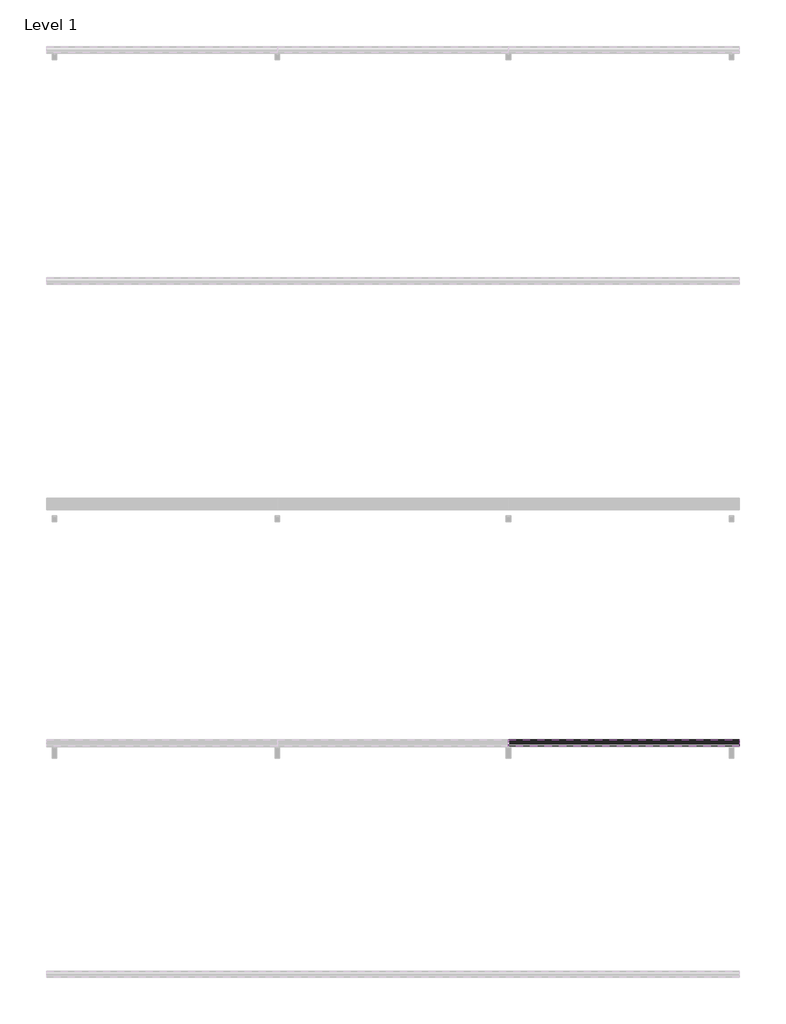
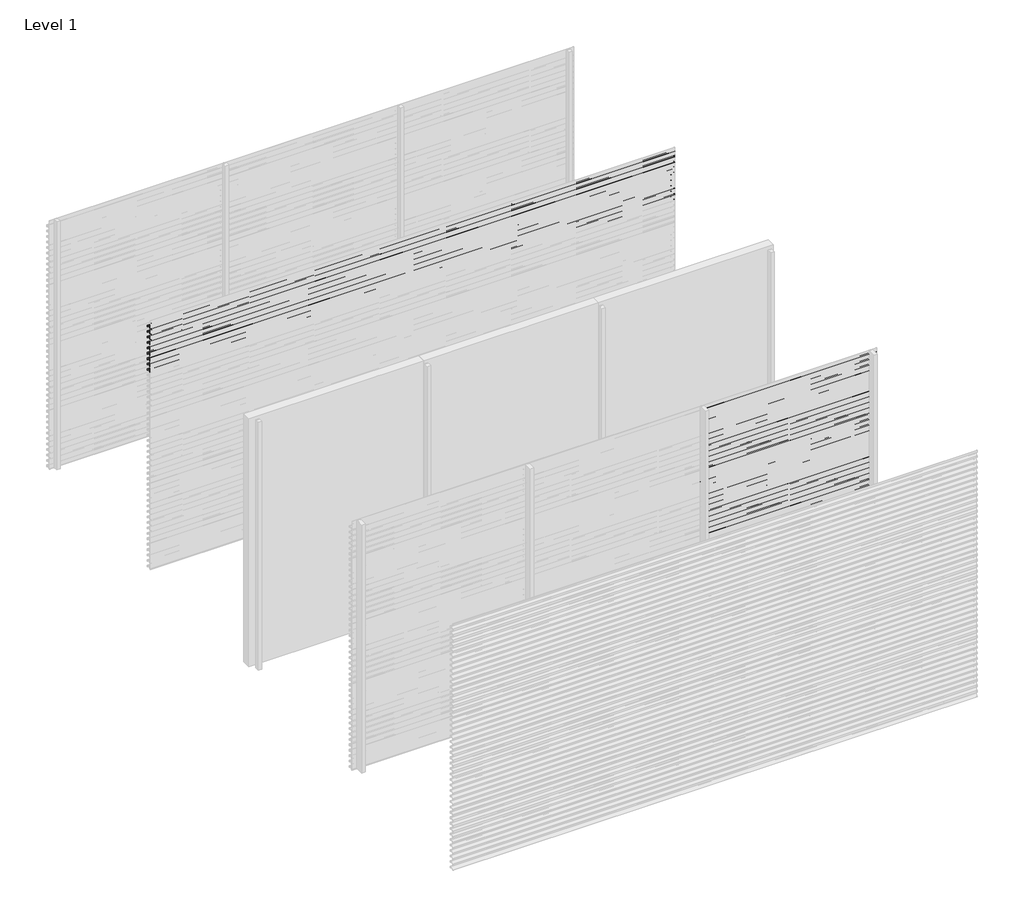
# One storey, part 12 of 27: 71 proxies.
"""IFC4 building model written with IfcOpenShell, lengths in millimetres."""

import ifcopenshell
import ifcopenshell.guid

model = None  # the IFC model being written
_history = None  # IfcOwnerHistory: only IFC2X3 demands one
_inside = {}  # id of a spatial element -> (the spatial element, [elements in it])
_under = {}  # id of a project, library or spatial element -> (it, [spatial elements below it])
_declared = {}  # id of a project -> (the project, [libraries it declares])
_typed = {}  # id of a type object -> (the type object, [elements of that type])
_made_of = {}  # id of a material, layer set ... -> (it, [elements and type objects made of it])


def new_model(schema):
    """Start an empty IFC model of exactly this schema.

    Asked for "IFC4X3", IfcOpenShell would pick the latest addendum, in which some entities
    have other attributes; the version numbers below select the first issue.
    IFC2X3 requires an IfcOwnerHistory on every rooted entity: one is made here for all.
    """
    global model, _history
    if schema == "IFC4X3":
        model = ifcopenshell.file(schema_version=(4, 3, 0, 0))
    else:
        model = ifcopenshell.file(schema=schema)
    _inside.clear()
    _under.clear()
    _declared.clear()
    _typed.clear()
    _made_of.clear()
    _history = None
    if model.schema == "IFC2X3":
        org = make("IfcOrganization", Name="unknown")
        user = make(
            "IfcPersonAndOrganization",
            ThePerson=make("IfcPerson", FamilyName="unknown"),
            TheOrganization=org,
        )
        app = make(
            "IfcApplication",
            ApplicationDeveloper=org,
            Version="unknown",
            ApplicationFullName="unknown",
            ApplicationIdentifier="unknown",
        )
        _history = make(
            "IfcOwnerHistory",
            OwningUser=user,
            OwningApplication=app,
            ChangeAction="ADDED",
            CreationDate=0,
        )
    return model


def make(cls, **values):
    """One entity of the class cls with the attributes given. An attribute that is None is left unset."""
    return model.create_entity(
        cls, **{name: value for name, value in values.items() if value is not None}
    )


def rooted(cls, **values):
    """An entity with a GlobalId (a new one), such as an element, a storey or a relation."""
    return make(cls, GlobalId=ifcopenshell.guid.new(), OwnerHistory=_history, **values)


def si_unit(unit_type, name, prefix=None):
    """IfcSIUnit, for example si_unit("LENGTHUNIT", "METRE", prefix="MILLI")."""
    return make("IfcSIUnit", UnitType=unit_type, Prefix=prefix, Name=name)


def assignment(units):
    """IfcUnitAssignment: the units of a project."""
    return None if units is None else make("IfcUnitAssignment", Units=units)


def point(xyz):
    """IfcCartesianPoint."""
    return None if xyz is None else make("IfcCartesianPoint", Coordinates=xyz)


def direction(xyz):
    """IfcDirection."""
    return None if xyz is None else make("IfcDirection", DirectionRatios=xyz)


def frame(location, z_axis=None, x_axis=None):
    """IfcAxis2Placement3D, a coordinate frame: its origin and axes. An axis left out is left unset."""
    return make(
        "IfcAxis2Placement3D",
        Location=point(location),
        Axis=direction(z_axis),
        RefDirection=direction(x_axis),
    )


def origin():
    """The frame at (0, 0, 0) with its axes left unset."""
    return frame((0.0, 0.0, 0.0))


def place(relative_to, where):
    """IfcLocalPlacement: puts the frame where relative to a parent placement (None: the world)."""
    return make(
        "IfcLocalPlacement", PlacementRelTo=relative_to, RelativePlacement=where
    )


def context(
    kind, dimensions, precision=None, world=None, true_north=None, identifier=None
):
    """IfcGeometricRepresentationContext, for example the 3D "Model" context."""
    return make(
        "IfcGeometricRepresentationContext",
        ContextIdentifier=identifier,
        ContextType=kind,
        CoordinateSpaceDimension=dimensions,
        Precision=precision,
        WorldCoordinateSystem=world,
        TrueNorth=true_north,
    )


def project(units=None, contexts=None):
    """IfcProject with its units and contexts."""
    return rooted(
        "IfcProject",
        Name="project",
        RepresentationContexts=contexts,
        UnitsInContext=assignment(units),
    )


def spatial(cls, under=None, at=None, **own):
    """A site, building, storey or space (cls), placed at a placement, below another one or the project."""
    s = rooted(cls, ObjectPlacement=at, **own)
    if under is not None:
        _under.setdefault(under.id(), (under, []))[1].append(s)
    return s


def polyline(points):
    """IfcPolyline through the points."""
    return make("IfcPolyline", Points=[point(p) for p in points])


def outline(outer, holes=None, kind="AREA"):
    """IfcArbitraryClosedProfileDef: a profile drawn as a closed curve; with holes, ...WithVoids."""
    if holes is None:
        return make("IfcArbitraryClosedProfileDef", ProfileType=kind, OuterCurve=outer)
    return make(
        "IfcArbitraryProfileDefWithVoids",
        ProfileType=kind,
        OuterCurve=outer,
        InnerCurves=holes,
    )


def extrude(swept, where, along, depth):
    """IfcExtrudedAreaSolid: the profile swept, set in the frame where, extruded along a direction by depth."""
    return make(
        "IfcExtrudedAreaSolid",
        SweptArea=swept,
        Position=where,
        ExtrudedDirection=direction(along),
        Depth=depth,
    )


def shape(context_of_items, identifier, shape_type, items):
    """IfcShapeRepresentation: the items that make up one representation, for example the "Body"."""
    return make(
        "IfcShapeRepresentation",
        ContextOfItems=context_of_items,
        RepresentationIdentifier=identifier,
        RepresentationType=shape_type,
        Items=items,
    )


def made_of(thing, what):
    """Note that an element or type object is made of a material, layer set ...; save() writes the relation."""
    if what is not None:
        _made_of.setdefault(what.id(), (what, []))[1].append(thing)
    return thing


def element(
    cls,
    number,
    at=None,
    inside=None,
    cuts=None,
    type_object=None,
    material=None,
    context=None,
    identifier="Body",
    shape_type=None,
    held_by="IfcProductDefinitionShape",
    body=None,
    shapes=None,
    **own,
):
    """One element of the class cls, such as IfcWall. Its Tag is "e" and its number.

    at: its placement. inside: the storey or other place that contains it. cuts: it is an
    opening in that element (IfcRelVoidsElement). A single representation is given by context,
    identifier, shape_type and body (its items); several are given by shapes. held_by: the class
    of the entity that holds the representations. save() writes the other relations.
    """
    e = rooted(cls, Tag="e%d" % number, ObjectPlacement=at, **own)
    if body is not None:
        shapes = [shape(context, identifier, shape_type, body)]
    if shapes is not None:
        e.Representation = make(held_by, Representations=shapes)
    if inside is not None:
        _inside.setdefault(inside.id(), (inside, []))[1].append(e)
    if cuts is not None:
        rooted(
            "IfcRelVoidsElement", RelatingBuildingElement=cuts, RelatedOpeningElement=e
        )
    if type_object is not None:
        _typed.setdefault(type_object.id(), (type_object, []))[1].append(e)
    return made_of(e, material)


def aggregate(whole, parts):
    """IfcRelAggregates: a whole, such as a stair, and the parts it consists of."""
    return rooted("IfcRelAggregates", RelatingObject=whole, RelatedObjects=parts)


def save(model, path):
    """Write the relations noted so far, then the file.

    IfcRelAggregates (storeys below a building ...), IfcRelContainedInSpatialStructure (elements
    in a storey), IfcRelDefinesByType, IfcRelAssociatesMaterial and IfcRelDeclares: one each for
    every whole, place, type object, material and project.
    """
    for whole, parts in _under.values():
        aggregate(whole, parts)
    for where, things in _inside.values():
        rooted(
            "IfcRelContainedInSpatialStructure",
            RelatedElements=things,
            RelatingStructure=where,
        )
    for kind, things in _typed.values():
        rooted("IfcRelDefinesByType", RelatedObjects=things, RelatingType=kind)
    for what, things in _made_of.values():
        rooted("IfcRelAssociatesMaterial", RelatedObjects=things, RelatingMaterial=what)
    for by, libraries in _declared.values():
        rooted("IfcRelDeclares", RelatingContext=by, RelatedDefinitions=libraries)
    model.write(path)


model = new_model("IFC4")

# Units and contexts
model_context = context("Model", 3, world=origin())
ifc_project = project(units=[si_unit("LENGTHUNIT", "METRE", prefix="MILLI")], contexts=[model_context])

# Site, building, storey
site = spatial("IfcSite", under=ifc_project)
building = spatial("IfcBuilding", under=site)
storey = spatial("IfcBuildingStorey", under=building, Name="Level 1", Elevation=0.0)

# Proxies
placement = place(None, origin())
element("IfcBuildingElementProxy", 1, Name="Wall Sweeps", at=placement, inside=storey, context=model_context, shape_type="SweptSolid", body=[
    extrude(outline(polyline([(-31943.0, 2913.2), (-31943.0, 2893.5), (-31944.25, 2894.5866084), (-31944.25, 2912.4872415), (-31963.0322086, 2925.6010889), (-31995.1332975, 2893.5), (-31996.0525363, 2894.4192388), (-31964.1148087, 2926.3569665), (-31998.0, 2950.0158044), (-31998.0, 2970.0), (-31996.75, 2970.0), (-31996.75, 2950.7285629), (-31943.0, 2913.2)])), frame((0.0, 0.0, 0.0), z_axis=(1.0, 0.0, 0.0), x_axis=(0.0, 1.0, 0.0)), (0.0, 0.0, 1.0), 6000.0),
])
element("IfcBuildingElementProxy", 2, Name="Wall Sweeps", at=placement, inside=storey, context=model_context, shape_type="SweptSolid", body=[
    extrude(outline(polyline([(-31943.0, 2847.2), (-31943.0, 2827.5), (-31944.25, 2828.5866084), (-31944.25, 2846.4872415), (-31963.0322086, 2859.6010889), (-31995.1332975, 2827.5), (-31996.0525363, 2828.4192388), (-31964.1148087, 2860.3569665), (-31998.0, 2884.0158044), (-31998.0, 2904.0), (-31996.75, 2904.0), (-31996.75, 2884.7285629), (-31943.0, 2847.2)])), frame((0.0, 0.0, 0.0), z_axis=(1.0, 0.0, 0.0), x_axis=(0.0, 1.0, 0.0)), (0.0, 0.0, 1.0), 6000.0),
])
element("IfcBuildingElementProxy", 3, Name="Wall Sweeps", at=placement, inside=storey, context=model_context, shape_type="SweptSolid", body=[
    extrude(outline(polyline([(-31943.0, 2781.2), (-31943.0, 2761.5), (-31944.25, 2762.5866084), (-31944.25, 2780.4872415), (-31963.0322086, 2793.6010889), (-31995.1332975, 2761.5), (-31996.0525363, 2762.4192388), (-31964.1148087, 2794.3569665), (-31998.0, 2818.0158044), (-31998.0, 2838.0), (-31996.75, 2838.0), (-31996.75, 2818.7285629), (-31943.0, 2781.2)])), frame((0.0, 0.0, 0.0), z_axis=(1.0, 0.0, 0.0), x_axis=(0.0, 1.0, 0.0)), (0.0, 0.0, 1.0), 6000.0),
])
element("IfcBuildingElementProxy", 4, Name="Wall Sweeps", at=placement, inside=storey, context=model_context, shape_type="SweptSolid", body=[
    extrude(outline(polyline([(-31943.0, 2715.2), (-31943.0, 2695.5), (-31944.25, 2696.5866084), (-31944.25, 2714.4872415), (-31963.0322086, 2727.6010889), (-31995.1332975, 2695.5), (-31996.0525363, 2696.4192388), (-31964.1148087, 2728.3569665), (-31998.0, 2752.0158044), (-31998.0, 2772.0), (-31996.75, 2772.0), (-31996.75, 2752.7285629), (-31943.0, 2715.2)])), frame((0.0, 0.0, 0.0), z_axis=(1.0, 0.0, 0.0), x_axis=(0.0, 1.0, 0.0)), (0.0, 0.0, 1.0), 6000.0),
])
element("IfcBuildingElementProxy", 5, Name="Wall Sweeps", at=placement, inside=storey, context=model_context, shape_type="SweptSolid", body=[
    extrude(outline(polyline([(-31943.0, 2649.2), (-31943.0, 2629.5), (-31944.25, 2630.5866084), (-31944.25, 2648.4872415), (-31963.0322086, 2661.6010889), (-31995.1332975, 2629.5), (-31996.0525363, 2630.4192388), (-31964.1148087, 2662.3569665), (-31998.0, 2686.0158044), (-31998.0, 2706.0), (-31996.75, 2706.0), (-31996.75, 2686.7285629), (-31943.0, 2649.2)])), frame((0.0, 0.0, 0.0), z_axis=(1.0, 0.0, 0.0), x_axis=(0.0, 1.0, 0.0)), (0.0, 0.0, 1.0), 6000.0),
])
element("IfcBuildingElementProxy", 6, Name="Wall Sweeps", at=placement, inside=storey, context=model_context, shape_type="SweptSolid", body=[
    extrude(outline(polyline([(-31943.0, 2583.2), (-31943.0, 2563.5), (-31944.25, 2564.5866084), (-31944.25, 2582.4872415), (-31963.0322086, 2595.6010889), (-31995.1332975, 2563.5), (-31996.0525363, 2564.4192388), (-31964.1148087, 2596.3569665), (-31998.0, 2620.0158044), (-31998.0, 2640.0), (-31996.75, 2640.0), (-31996.75, 2620.7285629), (-31943.0, 2583.2)])), frame((0.0, 0.0, 0.0), z_axis=(1.0, 0.0, 0.0), x_axis=(0.0, 1.0, 0.0)), (0.0, 0.0, 1.0), 6000.0),
])
element("IfcBuildingElementProxy", 7, Name="Wall Sweeps", at=placement, inside=storey, context=model_context, shape_type="SweptSolid", body=[
    extrude(outline(polyline([(-31943.0, 2517.2), (-31943.0, 2497.5), (-31944.25, 2498.5866084), (-31944.25, 2516.4872415), (-31963.0322086, 2529.6010889), (-31995.1332975, 2497.5), (-31996.0525363, 2498.4192388), (-31964.1148087, 2530.3569665), (-31998.0, 2554.0158044), (-31998.0, 2574.0), (-31996.75, 2574.0), (-31996.75, 2554.7285629), (-31943.0, 2517.2)])), frame((0.0, 0.0, 0.0), z_axis=(1.0, 0.0, 0.0), x_axis=(0.0, 1.0, 0.0)), (0.0, 0.0, 1.0), 6000.0),
])
element("IfcBuildingElementProxy", 8, Name="Wall Sweeps", at=placement, inside=storey, context=model_context, shape_type="SweptSolid", body=[
    extrude(outline(polyline([(-31943.0, 2451.2), (-31943.0, 2431.5), (-31944.25, 2432.5866084), (-31944.25, 2450.4872415), (-31963.0322086, 2463.6010889), (-31995.1332975, 2431.5), (-31996.0525363, 2432.4192388), (-31964.1148087, 2464.3569665), (-31998.0, 2488.0158044), (-31998.0, 2508.0), (-31996.75, 2508.0), (-31996.75, 2488.7285629), (-31943.0, 2451.2)])), frame((0.0, 0.0, 0.0), z_axis=(1.0, 0.0, 0.0), x_axis=(0.0, 1.0, 0.0)), (0.0, 0.0, 1.0), 6000.0),
])
element("IfcBuildingElementProxy", 9, Name="Wall Sweeps", at=placement, inside=storey, context=model_context, shape_type="SweptSolid", body=[
    extrude(outline(polyline([(-31943.0, 2385.2), (-31943.0, 2365.5), (-31944.25, 2366.5866084), (-31944.25, 2384.4872415), (-31963.0322086, 2397.6010889), (-31995.1332975, 2365.5), (-31996.0525363, 2366.4192388), (-31964.1148087, 2398.3569665), (-31998.0, 2422.0158044), (-31998.0, 2442.0), (-31996.75, 2442.0), (-31996.75, 2422.7285629), (-31943.0, 2385.2)])), frame((0.0, 0.0, 0.0), z_axis=(1.0, 0.0, 0.0), x_axis=(0.0, 1.0, 0.0)), (0.0, 0.0, 1.0), 6000.0),
])
element("IfcBuildingElementProxy", 10, Name="Wall Sweeps", at=placement, inside=storey, context=model_context, shape_type="SweptSolid", body=[
    extrude(outline(polyline([(-35943.0, 1065.2), (-35943.0, 1045.5), (-35944.25, 1046.5866084), (-35944.25, 1064.4872415), (-35963.0322086, 1077.6010889), (-35995.1332975, 1045.5), (-35996.0525363, 1046.4192388), (-35964.1148087, 1078.3569665), (-35998.0, 1102.0158044), (-35998.0, 1122.0), (-35996.75, 1122.0), (-35996.75, 1102.7285629), (-35943.0, 1065.2)])), frame((2000.0, 0.0, 0.0), z_axis=(1.0, 0.0, 0.0), x_axis=(0.0, 1.0, 0.0)), (0.0, 0.0, 1.0), 2000.0),
])
element("IfcBuildingElementProxy", 11, Name="Wall Sweeps", at=placement, inside=storey, context=model_context, shape_type="SweptSolid", body=[
    extrude(outline(polyline([(-35943.0, 999.2), (-35943.0, 979.5), (-35944.25, 980.5866084), (-35944.25, 998.4872415), (-35963.0322086, 1011.6010889), (-35995.1332975, 979.5), (-35996.0525363, 980.4192388), (-35964.1148087, 1012.3569665), (-35998.0, 1036.0158044), (-35998.0, 1056.0), (-35996.75, 1056.0), (-35996.75, 1036.7285629), (-35943.0, 999.2)])), frame((2000.0, 0.0, 0.0), z_axis=(1.0, 0.0, 0.0), x_axis=(0.0, 1.0, 0.0)), (0.0, 0.0, 1.0), 2000.0),
])
element("IfcBuildingElementProxy", 12, Name="Wall Sweeps", at=placement, inside=storey, context=model_context, shape_type="SweptSolid", body=[
    extrude(outline(polyline([(-35943.0, 933.2), (-35943.0, 913.5), (-35944.25, 914.5866084), (-35944.25, 932.4872415), (-35963.0322086, 945.6010889), (-35995.1332975, 913.5), (-35996.0525363, 914.4192388), (-35964.1148087, 946.3569665), (-35998.0, 970.0158044), (-35998.0, 990.0), (-35996.75, 990.0), (-35996.75, 970.7285629), (-35943.0, 933.2)])), frame((2000.0, 0.0, 0.0), z_axis=(1.0, 0.0, 0.0), x_axis=(0.0, 1.0, 0.0)), (0.0, 0.0, 1.0), 2000.0),
])
element("IfcBuildingElementProxy", 13, Name="Wall Sweeps", at=placement, inside=storey, context=model_context, shape_type="SweptSolid", body=[
    extrude(outline(polyline([(-35943.0, 867.2), (-35943.0, 847.5), (-35944.25, 848.5866084), (-35944.25, 866.4872415), (-35963.0322086, 879.6010889), (-35995.1332975, 847.5), (-35996.0525363, 848.4192388), (-35964.1148087, 880.3569665), (-35998.0, 904.0158044), (-35998.0, 924.0), (-35996.75, 924.0), (-35996.75, 904.7285629), (-35943.0, 867.2)])), frame((2000.0, 0.0, 0.0), z_axis=(1.0, 0.0, 0.0), x_axis=(0.0, 1.0, 0.0)), (0.0, 0.0, 1.0), 2000.0),
])
element("IfcBuildingElementProxy", 14, Name="Wall Sweeps", at=placement, inside=storey, context=model_context, shape_type="SweptSolid", body=[
    extrude(outline(polyline([(-35943.0, 801.2), (-35943.0, 781.5), (-35944.25, 782.5866084), (-35944.25, 800.4872415), (-35963.0322086, 813.6010889), (-35995.1332975, 781.5), (-35996.0525363, 782.4192388), (-35964.1148087, 814.3569665), (-35998.0, 838.0158044), (-35998.0, 858.0), (-35996.75, 858.0), (-35996.75, 838.7285629), (-35943.0, 801.2)])), frame((2000.0, 0.0, 0.0), z_axis=(1.0, 0.0, 0.0), x_axis=(0.0, 1.0, 0.0)), (0.0, 0.0, 1.0), 2000.0),
])
element("IfcBuildingElementProxy", 15, Name="Wall Sweeps", at=placement, inside=storey, context=model_context, shape_type="SweptSolid", body=[
    extrude(outline(polyline([(-35943.0, 735.2), (-35943.0, 715.5), (-35944.25, 716.5866084), (-35944.25, 734.4872415), (-35963.0322086, 747.6010889), (-35995.1332975, 715.5), (-35996.0525363, 716.4192388), (-35964.1148087, 748.3569665), (-35998.0, 772.0158044), (-35998.0, 792.0), (-35996.75, 792.0), (-35996.75, 772.7285629), (-35943.0, 735.2)])), frame((2000.0, 0.0, 0.0), z_axis=(1.0, 0.0, 0.0), x_axis=(0.0, 1.0, 0.0)), (0.0, 0.0, 1.0), 2000.0),
])
element("IfcBuildingElementProxy", 16, Name="Wall Sweeps", at=placement, inside=storey, context=model_context, shape_type="SweptSolid", body=[
    extrude(outline(polyline([(-35943.0, 669.2), (-35943.0, 649.5), (-35944.25, 650.5866084), (-35944.25, 668.4872415), (-35963.0322086, 681.6010889), (-35995.1332975, 649.5), (-35996.0525363, 650.4192388), (-35964.1148087, 682.3569665), (-35998.0, 706.0158044), (-35998.0, 726.0), (-35996.75, 726.0), (-35996.75, 706.7285629), (-35943.0, 669.2)])), frame((2000.0, 0.0, 0.0), z_axis=(1.0, 0.0, 0.0), x_axis=(0.0, 1.0, 0.0)), (0.0, 0.0, 1.0), 2000.0),
])
element("IfcBuildingElementProxy", 17, Name="Wall Sweeps", at=placement, inside=storey, context=model_context, shape_type="SweptSolid", body=[
    extrude(outline(polyline([(-35943.0, 603.2), (-35943.0, 583.5), (-35944.25, 584.5866084), (-35944.25, 602.4872415), (-35963.0322086, 615.6010889), (-35995.1332975, 583.5), (-35996.0525363, 584.4192388), (-35964.1148087, 616.3569665), (-35998.0, 640.0158044), (-35998.0, 660.0), (-35996.75, 660.0), (-35996.75, 640.7285629), (-35943.0, 603.2)])), frame((2000.0, 0.0, 0.0), z_axis=(1.0, 0.0, 0.0), x_axis=(0.0, 1.0, 0.0)), (0.0, 0.0, 1.0), 2000.0),
])
element("IfcBuildingElementProxy", 18, Name="Wall Sweeps", at=placement, inside=storey, context=model_context, shape_type="SweptSolid", body=[
    extrude(outline(polyline([(-35943.0, 537.2), (-35943.0, 517.5), (-35944.25, 518.5866084), (-35944.25, 536.4872415), (-35963.0322086, 549.6010889), (-35995.1332975, 517.5), (-35996.0525363, 518.4192388), (-35964.1148087, 550.3569665), (-35998.0, 574.0158044), (-35998.0, 594.0), (-35996.75, 594.0), (-35996.75, 574.7285629), (-35943.0, 537.2)])), frame((2000.0, 0.0, 0.0), z_axis=(1.0, 0.0, 0.0), x_axis=(0.0, 1.0, 0.0)), (0.0, 0.0, 1.0), 2000.0),
])
element("IfcBuildingElementProxy", 19, Name="Wall Sweeps", at=placement, inside=storey, context=model_context, shape_type="SweptSolid", body=[
    extrude(outline(polyline([(-35943.0, 471.2), (-35943.0, 451.5), (-35944.25, 452.5866084), (-35944.25, 470.4872415), (-35963.0322086, 483.6010889), (-35995.1332975, 451.5), (-35996.0525363, 452.4192388), (-35964.1148087, 484.3569665), (-35998.0, 508.0158044), (-35998.0, 528.0), (-35996.75, 528.0), (-35996.75, 508.7285629), (-35943.0, 471.2)])), frame((2000.0, 0.0, 0.0), z_axis=(1.0, 0.0, 0.0), x_axis=(0.0, 1.0, 0.0)), (0.0, 0.0, 1.0), 2000.0),
])
element("IfcBuildingElementProxy", 20, Name="Wall Sweeps", at=placement, inside=storey, context=model_context, shape_type="SweptSolid", body=[
    extrude(outline(polyline([(-35943.0, 405.2), (-35943.0, 385.5), (-35944.25, 386.5866084), (-35944.25, 404.4872415), (-35963.0322086, 417.6010889), (-35995.1332975, 385.5), (-35996.0525363, 386.4192388), (-35964.1148087, 418.3569665), (-35998.0, 442.0158044), (-35998.0, 462.0), (-35996.75, 462.0), (-35996.75, 442.7285629), (-35943.0, 405.2)])), frame((2000.0, 0.0, 0.0), z_axis=(1.0, 0.0, 0.0), x_axis=(0.0, 1.0, 0.0)), (0.0, 0.0, 1.0), 2000.0),
])
element("IfcBuildingElementProxy", 21, Name="Wall Sweeps", at=placement, inside=storey, context=model_context, shape_type="SweptSolid", body=[
    extrude(outline(polyline([(-35943.0, 339.2), (-35943.0, 319.5), (-35944.25, 320.5866084), (-35944.25, 338.4872415), (-35963.0322086, 351.6010889), (-35995.1332975, 319.5), (-35996.0525363, 320.4192388), (-35964.1148087, 352.3569665), (-35998.0, 376.0158044), (-35998.0, 396.0), (-35996.75, 396.0), (-35996.75, 376.7285629), (-35943.0, 339.2)])), frame((2000.0, 0.0, 0.0), z_axis=(1.0, 0.0, 0.0), x_axis=(0.0, 1.0, 0.0)), (0.0, 0.0, 1.0), 2000.0),
])
element("IfcBuildingElementProxy", 22, Name="Wall Sweeps", at=placement, inside=storey, context=model_context, shape_type="SweptSolid", body=[
    extrude(outline(polyline([(-35943.0, 273.2), (-35943.0, 253.5), (-35944.25, 254.5866084), (-35944.25, 272.4872415), (-35963.0322086, 285.6010889), (-35995.1332975, 253.5), (-35996.0525363, 254.4192388), (-35964.1148087, 286.3569665), (-35998.0, 310.0158044), (-35998.0, 330.0), (-35996.75, 330.0), (-35996.75, 310.7285629), (-35943.0, 273.2)])), frame((2000.0, 0.0, 0.0), z_axis=(1.0, 0.0, 0.0), x_axis=(0.0, 1.0, 0.0)), (0.0, 0.0, 1.0), 2000.0),
])
element("IfcBuildingElementProxy", 23, Name="Wall Sweeps", at=placement, inside=storey, context=model_context, shape_type="SweptSolid", body=[
    extrude(outline(polyline([(-35943.0, 207.2), (-35943.0, 187.5), (-35944.25, 188.5866084), (-35944.25, 206.4872415), (-35963.0322086, 219.6010889), (-35995.1332975, 187.5), (-35996.0525363, 188.4192388), (-35964.1148087, 220.3569665), (-35998.0, 244.0158044), (-35998.0, 264.0), (-35996.75, 264.0), (-35996.75, 244.7285629), (-35943.0, 207.2)])), frame((2000.0, 0.0, 0.0), z_axis=(1.0, 0.0, 0.0), x_axis=(0.0, 1.0, 0.0)), (0.0, 0.0, 1.0), 2000.0),
])
element("IfcBuildingElementProxy", 24, Name="Wall Sweeps", at=placement, inside=storey, context=model_context, shape_type="SweptSolid", body=[
    extrude(outline(polyline([(-35943.0, 141.2), (-35943.0, 121.5), (-35944.25, 122.5866084), (-35944.25, 140.4872415), (-35963.0322086, 153.6010889), (-35995.1332975, 121.5), (-35996.0525363, 122.4192388), (-35964.1148087, 154.3569665), (-35998.0, 178.0158044), (-35998.0, 198.0), (-35996.75, 198.0), (-35996.75, 178.7285629), (-35943.0, 141.2)])), frame((2000.0, 0.0, 0.0), z_axis=(1.0, 0.0, 0.0), x_axis=(0.0, 1.0, 0.0)), (0.0, 0.0, 1.0), 2000.0),
])
element("IfcBuildingElementProxy", 25, Name="Wall Sweeps", at=placement, inside=storey, context=model_context, shape_type="SweptSolid", body=[
    extrude(outline(polyline([(-35943.0, 75.2), (-35943.0, 55.5), (-35944.25, 56.5866084), (-35944.25, 74.4872415), (-35963.0322086, 87.6010889), (-35995.1332975, 55.5), (-35996.0525363, 56.4192388), (-35964.1148087, 88.3569665), (-35998.0, 112.0158044), (-35998.0, 132.0), (-35996.75, 132.0), (-35996.75, 112.7285629), (-35943.0, 75.2)])), frame((2000.0, 0.0, 0.0), z_axis=(1.0, 0.0, 0.0), x_axis=(0.0, 1.0, 0.0)), (0.0, 0.0, 1.0), 2000.0),
])
element("IfcBuildingElementProxy", 26, Name="Wall Sweeps", at=placement, inside=storey, context=model_context, shape_type="SweptSolid", body=[
    extrude(outline(polyline([(-35943.0, 9.2), (-35943.0, -10.5), (-35944.25, -9.4133916), (-35944.25, 8.4872415), (-35963.0322086, 21.6010889), (-35995.1332975, -10.5), (-35996.0525363, -9.5807612), (-35964.1148087, 22.3569665), (-35998.0, 46.0158044), (-35998.0, 66.0), (-35996.75, 66.0), (-35996.75, 46.7285629), (-35943.0, 9.2)])), frame((2000.0, 0.0, 0.0), z_axis=(1.0, 0.0, 0.0), x_axis=(0.0, 1.0, 0.0)), (0.0, 0.0, 1.0), 2000.0),
])
element("IfcBuildingElementProxy", 27, Name="Wall Sweeps", at=placement, inside=storey, context=model_context, shape_type="SweptSolid", body=[
    extrude(outline(polyline([(-35943.0, 2913.2), (-35943.0, 2893.5), (-35944.25, 2894.5866084), (-35944.25, 2912.4872415), (-35963.0322086, 2925.6010889), (-35995.1332975, 2893.5), (-35996.0525363, 2894.4192388), (-35964.1148087, 2926.3569665), (-35998.0, 2950.0158044), (-35998.0, 2970.0), (-35996.75, 2970.0), (-35996.75, 2950.7285629), (-35943.0, 2913.2)])), frame((4000.0, 0.0, 0.0), z_axis=(1.0, 0.0, 0.0), x_axis=(0.0, 1.0, 0.0)), (0.0, 0.0, 1.0), 2000.0),
])
element("IfcBuildingElementProxy", 28, Name="Wall Sweeps", at=placement, inside=storey, context=model_context, shape_type="SweptSolid", body=[
    extrude(outline(polyline([(-35943.0, 2847.2), (-35943.0, 2827.5), (-35944.25, 2828.5866084), (-35944.25, 2846.4872415), (-35963.0322086, 2859.6010889), (-35995.1332975, 2827.5), (-35996.0525363, 2828.4192388), (-35964.1148087, 2860.3569665), (-35998.0, 2884.0158044), (-35998.0, 2904.0), (-35996.75, 2904.0), (-35996.75, 2884.7285629), (-35943.0, 2847.2)])), frame((4000.0, 0.0, 0.0), z_axis=(1.0, 0.0, 0.0), x_axis=(0.0, 1.0, 0.0)), (0.0, 0.0, 1.0), 2000.0),
])
element("IfcBuildingElementProxy", 29, Name="Wall Sweeps", at=placement, inside=storey, context=model_context, shape_type="SweptSolid", body=[
    extrude(outline(polyline([(-35943.0, 2781.2), (-35943.0, 2761.5), (-35944.25, 2762.5866084), (-35944.25, 2780.4872415), (-35963.0322086, 2793.6010889), (-35995.1332975, 2761.5), (-35996.0525363, 2762.4192388), (-35964.1148087, 2794.3569665), (-35998.0, 2818.0158044), (-35998.0, 2838.0), (-35996.75, 2838.0), (-35996.75, 2818.7285629), (-35943.0, 2781.2)])), frame((4000.0, 0.0, 0.0), z_axis=(1.0, 0.0, 0.0), x_axis=(0.0, 1.0, 0.0)), (0.0, 0.0, 1.0), 2000.0),
])
element("IfcBuildingElementProxy", 30, Name="Wall Sweeps", at=placement, inside=storey, context=model_context, shape_type="SweptSolid", body=[
    extrude(outline(polyline([(-35943.0, 2715.2), (-35943.0, 2695.5), (-35944.25, 2696.5866084), (-35944.25, 2714.4872415), (-35963.0322086, 2727.6010889), (-35995.1332975, 2695.5), (-35996.0525363, 2696.4192388), (-35964.1148087, 2728.3569665), (-35998.0, 2752.0158044), (-35998.0, 2772.0), (-35996.75, 2772.0), (-35996.75, 2752.7285629), (-35943.0, 2715.2)])), frame((4000.0, 0.0, 0.0), z_axis=(1.0, 0.0, 0.0), x_axis=(0.0, 1.0, 0.0)), (0.0, 0.0, 1.0), 2000.0),
])
element("IfcBuildingElementProxy", 31, Name="Wall Sweeps", at=placement, inside=storey, context=model_context, shape_type="SweptSolid", body=[
    extrude(outline(polyline([(-35943.0, 2649.2), (-35943.0, 2629.5), (-35944.25, 2630.5866084), (-35944.25, 2648.4872415), (-35963.0322086, 2661.6010889), (-35995.1332975, 2629.5), (-35996.0525363, 2630.4192388), (-35964.1148087, 2662.3569665), (-35998.0, 2686.0158044), (-35998.0, 2706.0), (-35996.75, 2706.0), (-35996.75, 2686.7285629), (-35943.0, 2649.2)])), frame((4000.0, 0.0, 0.0), z_axis=(1.0, 0.0, 0.0), x_axis=(0.0, 1.0, 0.0)), (0.0, 0.0, 1.0), 2000.0),
])
element("IfcBuildingElementProxy", 32, Name="Wall Sweeps", at=placement, inside=storey, context=model_context, shape_type="SweptSolid", body=[
    extrude(outline(polyline([(-35943.0, 2583.2), (-35943.0, 2563.5), (-35944.25, 2564.5866084), (-35944.25, 2582.4872415), (-35963.0322086, 2595.6010889), (-35995.1332975, 2563.5), (-35996.0525363, 2564.4192388), (-35964.1148087, 2596.3569665), (-35998.0, 2620.0158044), (-35998.0, 2640.0), (-35996.75, 2640.0), (-35996.75, 2620.7285629), (-35943.0, 2583.2)])), frame((4000.0, 0.0, 0.0), z_axis=(1.0, 0.0, 0.0), x_axis=(0.0, 1.0, 0.0)), (0.0, 0.0, 1.0), 2000.0),
])
element("IfcBuildingElementProxy", 33, Name="Wall Sweeps", at=placement, inside=storey, context=model_context, shape_type="SweptSolid", body=[
    extrude(outline(polyline([(-35943.0, 2517.2), (-35943.0, 2497.5), (-35944.25, 2498.5866084), (-35944.25, 2516.4872415), (-35963.0322086, 2529.6010889), (-35995.1332975, 2497.5), (-35996.0525363, 2498.4192388), (-35964.1148087, 2530.3569665), (-35998.0, 2554.0158044), (-35998.0, 2574.0), (-35996.75, 2574.0), (-35996.75, 2554.7285629), (-35943.0, 2517.2)])), frame((4000.0, 0.0, 0.0), z_axis=(1.0, 0.0, 0.0), x_axis=(0.0, 1.0, 0.0)), (0.0, 0.0, 1.0), 2000.0),
])
element("IfcBuildingElementProxy", 34, Name="Wall Sweeps", at=placement, inside=storey, context=model_context, shape_type="SweptSolid", body=[
    extrude(outline(polyline([(-35943.0, 2451.2), (-35943.0, 2431.5), (-35944.25, 2432.5866084), (-35944.25, 2450.4872415), (-35963.0322086, 2463.6010889), (-35995.1332975, 2431.5), (-35996.0525363, 2432.4192388), (-35964.1148087, 2464.3569665), (-35998.0, 2488.0158044), (-35998.0, 2508.0), (-35996.75, 2508.0), (-35996.75, 2488.7285629), (-35943.0, 2451.2)])), frame((4000.0, 0.0, 0.0), z_axis=(1.0, 0.0, 0.0), x_axis=(0.0, 1.0, 0.0)), (0.0, 0.0, 1.0), 2000.0),
])
element("IfcBuildingElementProxy", 35, Name="Wall Sweeps", at=placement, inside=storey, context=model_context, shape_type="SweptSolid", body=[
    extrude(outline(polyline([(-35943.0, 2385.2), (-35943.0, 2365.5), (-35944.25, 2366.5866084), (-35944.25, 2384.4872415), (-35963.0322086, 2397.6010889), (-35995.1332975, 2365.5), (-35996.0525363, 2366.4192388), (-35964.1148087, 2398.3569665), (-35998.0, 2422.0158044), (-35998.0, 2442.0), (-35996.75, 2442.0), (-35996.75, 2422.7285629), (-35943.0, 2385.2)])), frame((4000.0, 0.0, 0.0), z_axis=(1.0, 0.0, 0.0), x_axis=(0.0, 1.0, 0.0)), (0.0, 0.0, 1.0), 2000.0),
])
element("IfcBuildingElementProxy", 36, Name="Wall Sweeps", at=placement, inside=storey, context=model_context, shape_type="SweptSolid", body=[
    extrude(outline(polyline([(-35943.0, 2319.2), (-35943.0, 2299.5), (-35944.25, 2300.5866084), (-35944.25, 2318.4872415), (-35963.0322086, 2331.6010889), (-35995.1332975, 2299.5), (-35996.0525363, 2300.4192388), (-35964.1148087, 2332.3569665), (-35998.0, 2356.0158044), (-35998.0, 2376.0), (-35996.75, 2376.0), (-35996.75, 2356.7285629), (-35943.0, 2319.2)])), frame((4000.0, 0.0, 0.0), z_axis=(1.0, 0.0, 0.0), x_axis=(0.0, 1.0, 0.0)), (0.0, 0.0, 1.0), 2000.0),
])
element("IfcBuildingElementProxy", 37, Name="Wall Sweeps", at=placement, inside=storey, context=model_context, shape_type="SweptSolid", body=[
    extrude(outline(polyline([(-35943.0, 2253.2), (-35943.0, 2233.5), (-35944.25, 2234.5866084), (-35944.25, 2252.4872415), (-35963.0322086, 2265.6010889), (-35995.1332975, 2233.5), (-35996.0525363, 2234.4192388), (-35964.1148087, 2266.3569665), (-35998.0, 2290.0158044), (-35998.0, 2310.0), (-35996.75, 2310.0), (-35996.75, 2290.7285629), (-35943.0, 2253.2)])), frame((4000.0, 0.0, 0.0), z_axis=(1.0, 0.0, 0.0), x_axis=(0.0, 1.0, 0.0)), (0.0, 0.0, 1.0), 2000.0),
])
element("IfcBuildingElementProxy", 38, Name="Wall Sweeps", at=placement, inside=storey, context=model_context, shape_type="SweptSolid", body=[
    extrude(outline(polyline([(-35943.0, 2187.2), (-35943.0, 2167.5), (-35944.25, 2168.5866084), (-35944.25, 2186.4872415), (-35963.0322086, 2199.6010889), (-35995.1332975, 2167.5), (-35996.0525363, 2168.4192388), (-35964.1148087, 2200.3569665), (-35998.0, 2224.0158044), (-35998.0, 2244.0), (-35996.75, 2244.0), (-35996.75, 2224.7285629), (-35943.0, 2187.2)])), frame((4000.0, 0.0, 0.0), z_axis=(1.0, 0.0, 0.0), x_axis=(0.0, 1.0, 0.0)), (0.0, 0.0, 1.0), 2000.0),
])
element("IfcBuildingElementProxy", 39, Name="Wall Sweeps", at=placement, inside=storey, context=model_context, shape_type="SweptSolid", body=[
    extrude(outline(polyline([(-35943.0, 2121.2), (-35943.0, 2101.5), (-35944.25, 2102.5866084), (-35944.25, 2120.4872415), (-35963.0322086, 2133.6010889), (-35995.1332975, 2101.5), (-35996.0525363, 2102.4192388), (-35964.1148087, 2134.3569665), (-35998.0, 2158.0158044), (-35998.0, 2178.0), (-35996.75, 2178.0), (-35996.75, 2158.7285629), (-35943.0, 2121.2)])), frame((4000.0, 0.0, 0.0), z_axis=(1.0, 0.0, 0.0), x_axis=(0.0, 1.0, 0.0)), (0.0, 0.0, 1.0), 2000.0),
])
element("IfcBuildingElementProxy", 40, Name="Wall Sweeps", at=placement, inside=storey, context=model_context, shape_type="SweptSolid", body=[
    extrude(outline(polyline([(-35943.0, 2055.2), (-35943.0, 2035.5), (-35944.25, 2036.5866084), (-35944.25, 2054.4872415), (-35963.0322086, 2067.6010889), (-35995.1332975, 2035.5), (-35996.0525363, 2036.4192388), (-35964.1148087, 2068.3569665), (-35998.0, 2092.0158044), (-35998.0, 2112.0), (-35996.75, 2112.0), (-35996.75, 2092.7285629), (-35943.0, 2055.2)])), frame((4000.0, 0.0, 0.0), z_axis=(1.0, 0.0, 0.0), x_axis=(0.0, 1.0, 0.0)), (0.0, 0.0, 1.0), 2000.0),
])
element("IfcBuildingElementProxy", 41, Name="Wall Sweeps", at=placement, inside=storey, context=model_context, shape_type="SweptSolid", body=[
    extrude(outline(polyline([(-35943.0, 1989.2), (-35943.0, 1969.5), (-35944.25, 1970.5866084), (-35944.25, 1988.4872415), (-35963.0322086, 2001.6010889), (-35995.1332975, 1969.5), (-35996.0525363, 1970.4192388), (-35964.1148087, 2002.3569665), (-35998.0, 2026.0158044), (-35998.0, 2046.0), (-35996.75, 2046.0), (-35996.75, 2026.7285629), (-35943.0, 1989.2)])), frame((4000.0, 0.0, 0.0), z_axis=(1.0, 0.0, 0.0), x_axis=(0.0, 1.0, 0.0)), (0.0, 0.0, 1.0), 2000.0),
])
element("IfcBuildingElementProxy", 42, Name="Wall Sweeps", at=placement, inside=storey, context=model_context, shape_type="SweptSolid", body=[
    extrude(outline(polyline([(-35943.0, 1923.2), (-35943.0, 1903.5), (-35944.25, 1904.5866084), (-35944.25, 1922.4872415), (-35963.0322086, 1935.6010889), (-35995.1332975, 1903.5), (-35996.0525363, 1904.4192388), (-35964.1148087, 1936.3569665), (-35998.0, 1960.0158044), (-35998.0, 1980.0), (-35996.75, 1980.0), (-35996.75, 1960.7285629), (-35943.0, 1923.2)])), frame((4000.0, 0.0, 0.0), z_axis=(1.0, 0.0, 0.0), x_axis=(0.0, 1.0, 0.0)), (0.0, 0.0, 1.0), 2000.0),
])
element("IfcBuildingElementProxy", 43, Name="Wall Sweeps", at=placement, inside=storey, context=model_context, shape_type="SweptSolid", body=[
    extrude(outline(polyline([(-35943.0, 1857.2), (-35943.0, 1837.5), (-35944.25, 1838.5866084), (-35944.25, 1856.4872415), (-35963.0322086, 1869.6010889), (-35995.1332975, 1837.5), (-35996.0525363, 1838.4192388), (-35964.1148087, 1870.3569665), (-35998.0, 1894.0158044), (-35998.0, 1914.0), (-35996.75, 1914.0), (-35996.75, 1894.7285629), (-35943.0, 1857.2)])), frame((4000.0, 0.0, 0.0), z_axis=(1.0, 0.0, 0.0), x_axis=(0.0, 1.0, 0.0)), (0.0, 0.0, 1.0), 2000.0),
])
element("IfcBuildingElementProxy", 44, Name="Wall Sweeps", at=placement, inside=storey, context=model_context, shape_type="SweptSolid", body=[
    extrude(outline(polyline([(-35943.0, 1791.2), (-35943.0, 1771.5), (-35944.25, 1772.5866084), (-35944.25, 1790.4872415), (-35963.0322086, 1803.6010889), (-35995.1332975, 1771.5), (-35996.0525363, 1772.4192388), (-35964.1148087, 1804.3569665), (-35998.0, 1828.0158044), (-35998.0, 1848.0), (-35996.75, 1848.0), (-35996.75, 1828.7285629), (-35943.0, 1791.2)])), frame((4000.0, 0.0, 0.0), z_axis=(1.0, 0.0, 0.0), x_axis=(0.0, 1.0, 0.0)), (0.0, 0.0, 1.0), 2000.0),
])
element("IfcBuildingElementProxy", 45, Name="Wall Sweeps", at=placement, inside=storey, context=model_context, shape_type="SweptSolid", body=[
    extrude(outline(polyline([(-35943.0, 1725.2), (-35943.0, 1705.5), (-35944.25, 1706.5866084), (-35944.25, 1724.4872415), (-35963.0322086, 1737.6010889), (-35995.1332975, 1705.5), (-35996.0525363, 1706.4192388), (-35964.1148087, 1738.3569665), (-35998.0, 1762.0158044), (-35998.0, 1782.0), (-35996.75, 1782.0), (-35996.75, 1762.7285629), (-35943.0, 1725.2)])), frame((4000.0, 0.0, 0.0), z_axis=(1.0, 0.0, 0.0), x_axis=(0.0, 1.0, 0.0)), (0.0, 0.0, 1.0), 2000.0),
])
element("IfcBuildingElementProxy", 46, Name="Wall Sweeps", at=placement, inside=storey, context=model_context, shape_type="SweptSolid", body=[
    extrude(outline(polyline([(-35943.0, 1659.2), (-35943.0, 1639.5), (-35944.25, 1640.5866084), (-35944.25, 1658.4872415), (-35963.0322086, 1671.6010889), (-35995.1332975, 1639.5), (-35996.0525363, 1640.4192388), (-35964.1148087, 1672.3569665), (-35998.0, 1696.0158044), (-35998.0, 1716.0), (-35996.75, 1716.0), (-35996.75, 1696.7285629), (-35943.0, 1659.2)])), frame((4000.0, 0.0, 0.0), z_axis=(1.0, 0.0, 0.0), x_axis=(0.0, 1.0, 0.0)), (0.0, 0.0, 1.0), 2000.0),
])
element("IfcBuildingElementProxy", 47, Name="Wall Sweeps", at=placement, inside=storey, context=model_context, shape_type="SweptSolid", body=[
    extrude(outline(polyline([(-35943.0, 1593.2), (-35943.0, 1573.5), (-35944.25, 1574.5866084), (-35944.25, 1592.4872415), (-35963.0322086, 1605.6010889), (-35995.1332975, 1573.5), (-35996.0525363, 1574.4192388), (-35964.1148087, 1606.3569665), (-35998.0, 1630.0158044), (-35998.0, 1650.0), (-35996.75, 1650.0), (-35996.75, 1630.7285629), (-35943.0, 1593.2)])), frame((4000.0, 0.0, 0.0), z_axis=(1.0, 0.0, 0.0), x_axis=(0.0, 1.0, 0.0)), (0.0, 0.0, 1.0), 2000.0),
])
element("IfcBuildingElementProxy", 48, Name="Wall Sweeps", at=placement, inside=storey, context=model_context, shape_type="SweptSolid", body=[
    extrude(outline(polyline([(-35943.0, 1527.2), (-35943.0, 1507.5), (-35944.25, 1508.5866084), (-35944.25, 1526.4872415), (-35963.0322086, 1539.6010889), (-35995.1332975, 1507.5), (-35996.0525363, 1508.4192388), (-35964.1148087, 1540.3569665), (-35998.0, 1564.0158044), (-35998.0, 1584.0), (-35996.75, 1584.0), (-35996.75, 1564.7285629), (-35943.0, 1527.2)])), frame((4000.0, 0.0, 0.0), z_axis=(1.0, 0.0, 0.0), x_axis=(0.0, 1.0, 0.0)), (0.0, 0.0, 1.0), 2000.0),
])
element("IfcBuildingElementProxy", 49, Name="Wall Sweeps", at=placement, inside=storey, context=model_context, shape_type="SweptSolid", body=[
    extrude(outline(polyline([(-35943.0, 1461.2), (-35943.0, 1441.5), (-35944.25, 1442.5866084), (-35944.25, 1460.4872415), (-35963.0322086, 1473.6010889), (-35995.1332975, 1441.5), (-35996.0525363, 1442.4192388), (-35964.1148087, 1474.3569665), (-35998.0, 1498.0158044), (-35998.0, 1518.0), (-35996.75, 1518.0), (-35996.75, 1498.7285629), (-35943.0, 1461.2)])), frame((4000.0, 0.0, 0.0), z_axis=(1.0, 0.0, 0.0), x_axis=(0.0, 1.0, 0.0)), (0.0, 0.0, 1.0), 2000.0),
])
element("IfcBuildingElementProxy", 50, Name="Wall Sweeps", at=placement, inside=storey, context=model_context, shape_type="SweptSolid", body=[
    extrude(outline(polyline([(-35943.0, 1395.2), (-35943.0, 1375.5), (-35944.25, 1376.5866084), (-35944.25, 1394.4872415), (-35963.0322086, 1407.6010889), (-35995.1332975, 1375.5), (-35996.0525363, 1376.4192388), (-35964.1148087, 1408.3569665), (-35998.0, 1432.0158044), (-35998.0, 1452.0), (-35996.75, 1452.0), (-35996.75, 1432.7285629), (-35943.0, 1395.2)])), frame((4000.0, 0.0, 0.0), z_axis=(1.0, 0.0, 0.0), x_axis=(0.0, 1.0, 0.0)), (0.0, 0.0, 1.0), 2000.0),
])
element("IfcBuildingElementProxy", 51, Name="Wall Sweeps", at=placement, inside=storey, context=model_context, shape_type="SweptSolid", body=[
    extrude(outline(polyline([(-35943.0, 1329.2), (-35943.0, 1309.5), (-35944.25, 1310.5866084), (-35944.25, 1328.4872415), (-35963.0322086, 1341.6010889), (-35995.1332975, 1309.5), (-35996.0525363, 1310.4192388), (-35964.1148087, 1342.3569665), (-35998.0, 1366.0158044), (-35998.0, 1386.0), (-35996.75, 1386.0), (-35996.75, 1366.7285629), (-35943.0, 1329.2)])), frame((4000.0, 0.0, 0.0), z_axis=(1.0, 0.0, 0.0), x_axis=(0.0, 1.0, 0.0)), (0.0, 0.0, 1.0), 2000.0),
])
element("IfcBuildingElementProxy", 52, Name="Wall Sweeps", at=placement, inside=storey, context=model_context, shape_type="SweptSolid", body=[
    extrude(outline(polyline([(-35943.0, 1263.2), (-35943.0, 1243.5), (-35944.25, 1244.5866084), (-35944.25, 1262.4872415), (-35963.0322086, 1275.6010889), (-35995.1332975, 1243.5), (-35996.0525363, 1244.4192388), (-35964.1148087, 1276.3569665), (-35998.0, 1300.0158044), (-35998.0, 1320.0), (-35996.75, 1320.0), (-35996.75, 1300.7285629), (-35943.0, 1263.2)])), frame((4000.0, 0.0, 0.0), z_axis=(1.0, 0.0, 0.0), x_axis=(0.0, 1.0, 0.0)), (0.0, 0.0, 1.0), 2000.0),
])
element("IfcBuildingElementProxy", 53, Name="Wall Sweeps", at=placement, inside=storey, context=model_context, shape_type="SweptSolid", body=[
    extrude(outline(polyline([(-35943.0, 1197.2), (-35943.0, 1177.5), (-35944.25, 1178.5866084), (-35944.25, 1196.4872415), (-35963.0322086, 1209.6010889), (-35995.1332975, 1177.5), (-35996.0525363, 1178.4192388), (-35964.1148087, 1210.3569665), (-35998.0, 1234.0158044), (-35998.0, 1254.0), (-35996.75, 1254.0), (-35996.75, 1234.7285629), (-35943.0, 1197.2)])), frame((4000.0, 0.0, 0.0), z_axis=(1.0, 0.0, 0.0), x_axis=(0.0, 1.0, 0.0)), (0.0, 0.0, 1.0), 2000.0),
])
element("IfcBuildingElementProxy", 54, Name="Wall Sweeps", at=placement, inside=storey, context=model_context, shape_type="SweptSolid", body=[
    extrude(outline(polyline([(-35943.0, 1131.2), (-35943.0, 1111.5), (-35944.25, 1112.5866084), (-35944.25, 1130.4872415), (-35963.0322086, 1143.6010889), (-35995.1332975, 1111.5), (-35996.0525363, 1112.4192388), (-35964.1148087, 1144.3569665), (-35998.0, 1168.0158044), (-35998.0, 1188.0), (-35996.75, 1188.0), (-35996.75, 1168.7285629), (-35943.0, 1131.2)])), frame((4000.0, 0.0, 0.0), z_axis=(1.0, 0.0, 0.0), x_axis=(0.0, 1.0, 0.0)), (0.0, 0.0, 1.0), 2000.0),
])
element("IfcBuildingElementProxy", 55, Name="Wall Sweeps", at=placement, inside=storey, context=model_context, shape_type="SweptSolid", body=[
    extrude(outline(polyline([(-35943.0, 1065.2), (-35943.0, 1045.5), (-35944.25, 1046.5866084), (-35944.25, 1064.4872415), (-35963.0322086, 1077.6010889), (-35995.1332975, 1045.5), (-35996.0525363, 1046.4192388), (-35964.1148087, 1078.3569665), (-35998.0, 1102.0158044), (-35998.0, 1122.0), (-35996.75, 1122.0), (-35996.75, 1102.7285629), (-35943.0, 1065.2)])), frame((4000.0, 0.0, 0.0), z_axis=(1.0, 0.0, 0.0), x_axis=(0.0, 1.0, 0.0)), (0.0, 0.0, 1.0), 2000.0),
])
element("IfcBuildingElementProxy", 56, Name="Wall Sweeps", at=placement, inside=storey, context=model_context, shape_type="SweptSolid", body=[
    extrude(outline(polyline([(-35943.0, 999.2), (-35943.0, 979.5), (-35944.25, 980.5866084), (-35944.25, 998.4872415), (-35963.0322086, 1011.6010889), (-35995.1332975, 979.5), (-35996.0525363, 980.4192388), (-35964.1148087, 1012.3569665), (-35998.0, 1036.0158044), (-35998.0, 1056.0), (-35996.75, 1056.0), (-35996.75, 1036.7285629), (-35943.0, 999.2)])), frame((4000.0, 0.0, 0.0), z_axis=(1.0, 0.0, 0.0), x_axis=(0.0, 1.0, 0.0)), (0.0, 0.0, 1.0), 2000.0),
])
element("IfcBuildingElementProxy", 57, Name="Wall Sweeps", at=placement, inside=storey, context=model_context, shape_type="SweptSolid", body=[
    extrude(outline(polyline([(-35943.0, 933.2), (-35943.0, 913.5), (-35944.25, 914.5866084), (-35944.25, 932.4872415), (-35963.0322086, 945.6010889), (-35995.1332975, 913.5), (-35996.0525363, 914.4192388), (-35964.1148087, 946.3569665), (-35998.0, 970.0158044), (-35998.0, 990.0), (-35996.75, 990.0), (-35996.75, 970.7285629), (-35943.0, 933.2)])), frame((4000.0, 0.0, 0.0), z_axis=(1.0, 0.0, 0.0), x_axis=(0.0, 1.0, 0.0)), (0.0, 0.0, 1.0), 2000.0),
])
element("IfcBuildingElementProxy", 58, Name="Wall Sweeps", at=placement, inside=storey, context=model_context, shape_type="SweptSolid", body=[
    extrude(outline(polyline([(-35943.0, 867.2), (-35943.0, 847.5), (-35944.25, 848.5866084), (-35944.25, 866.4872415), (-35963.0322086, 879.6010889), (-35995.1332975, 847.5), (-35996.0525363, 848.4192388), (-35964.1148087, 880.3569665), (-35998.0, 904.0158044), (-35998.0, 924.0), (-35996.75, 924.0), (-35996.75, 904.7285629), (-35943.0, 867.2)])), frame((4000.0, 0.0, 0.0), z_axis=(1.0, 0.0, 0.0), x_axis=(0.0, 1.0, 0.0)), (0.0, 0.0, 1.0), 2000.0),
])
element("IfcBuildingElementProxy", 59, Name="Wall Sweeps", at=placement, inside=storey, context=model_context, shape_type="SweptSolid", body=[
    extrude(outline(polyline([(-35943.0, 801.2), (-35943.0, 781.5), (-35944.25, 782.5866084), (-35944.25, 800.4872415), (-35963.0322086, 813.6010889), (-35995.1332975, 781.5), (-35996.0525363, 782.4192388), (-35964.1148087, 814.3569665), (-35998.0, 838.0158044), (-35998.0, 858.0), (-35996.75, 858.0), (-35996.75, 838.7285629), (-35943.0, 801.2)])), frame((4000.0, 0.0, 0.0), z_axis=(1.0, 0.0, 0.0), x_axis=(0.0, 1.0, 0.0)), (0.0, 0.0, 1.0), 2000.0),
])
element("IfcBuildingElementProxy", 60, Name="Wall Sweeps", at=placement, inside=storey, context=model_context, shape_type="SweptSolid", body=[
    extrude(outline(polyline([(-35943.0, 735.2), (-35943.0, 715.5), (-35944.25, 716.5866084), (-35944.25, 734.4872415), (-35963.0322086, 747.6010889), (-35995.1332975, 715.5), (-35996.0525363, 716.4192388), (-35964.1148087, 748.3569665), (-35998.0, 772.0158044), (-35998.0, 792.0), (-35996.75, 792.0), (-35996.75, 772.7285629), (-35943.0, 735.2)])), frame((4000.0, 0.0, 0.0), z_axis=(1.0, 0.0, 0.0), x_axis=(0.0, 1.0, 0.0)), (0.0, 0.0, 1.0), 2000.0),
])
element("IfcBuildingElementProxy", 61, Name="Wall Sweeps", at=placement, inside=storey, context=model_context, shape_type="SweptSolid", body=[
    extrude(outline(polyline([(-35943.0, 669.2), (-35943.0, 649.5), (-35944.25, 650.5866084), (-35944.25, 668.4872415), (-35963.0322086, 681.6010889), (-35995.1332975, 649.5), (-35996.0525363, 650.4192388), (-35964.1148087, 682.3569665), (-35998.0, 706.0158044), (-35998.0, 726.0), (-35996.75, 726.0), (-35996.75, 706.7285629), (-35943.0, 669.2)])), frame((4000.0, 0.0, 0.0), z_axis=(1.0, 0.0, 0.0), x_axis=(0.0, 1.0, 0.0)), (0.0, 0.0, 1.0), 2000.0),
])
element("IfcBuildingElementProxy", 62, Name="Wall Sweeps", at=placement, inside=storey, context=model_context, shape_type="SweptSolid", body=[
    extrude(outline(polyline([(-35943.0, 603.2), (-35943.0, 583.5), (-35944.25, 584.5866084), (-35944.25, 602.4872415), (-35963.0322086, 615.6010889), (-35995.1332975, 583.5), (-35996.0525363, 584.4192388), (-35964.1148087, 616.3569665), (-35998.0, 640.0158044), (-35998.0, 660.0), (-35996.75, 660.0), (-35996.75, 640.7285629), (-35943.0, 603.2)])), frame((4000.0, 0.0, 0.0), z_axis=(1.0, 0.0, 0.0), x_axis=(0.0, 1.0, 0.0)), (0.0, 0.0, 1.0), 2000.0),
])
element("IfcBuildingElementProxy", 63, Name="Wall Sweeps", at=placement, inside=storey, context=model_context, shape_type="SweptSolid", body=[
    extrude(outline(polyline([(-35943.0, 537.2), (-35943.0, 517.5), (-35944.25, 518.5866084), (-35944.25, 536.4872415), (-35963.0322086, 549.6010889), (-35995.1332975, 517.5), (-35996.0525363, 518.4192388), (-35964.1148087, 550.3569665), (-35998.0, 574.0158044), (-35998.0, 594.0), (-35996.75, 594.0), (-35996.75, 574.7285629), (-35943.0, 537.2)])), frame((4000.0, 0.0, 0.0), z_axis=(1.0, 0.0, 0.0), x_axis=(0.0, 1.0, 0.0)), (0.0, 0.0, 1.0), 2000.0),
])
element("IfcBuildingElementProxy", 64, Name="Wall Sweeps", at=placement, inside=storey, context=model_context, shape_type="SweptSolid", body=[
    extrude(outline(polyline([(-35943.0, 471.2), (-35943.0, 451.5), (-35944.25, 452.5866084), (-35944.25, 470.4872415), (-35963.0322086, 483.6010889), (-35995.1332975, 451.5), (-35996.0525363, 452.4192388), (-35964.1148087, 484.3569665), (-35998.0, 508.0158044), (-35998.0, 528.0), (-35996.75, 528.0), (-35996.75, 508.7285629), (-35943.0, 471.2)])), frame((4000.0, 0.0, 0.0), z_axis=(1.0, 0.0, 0.0), x_axis=(0.0, 1.0, 0.0)), (0.0, 0.0, 1.0), 2000.0),
])
element("IfcBuildingElementProxy", 65, Name="Wall Sweeps", at=placement, inside=storey, context=model_context, shape_type="SweptSolid", body=[
    extrude(outline(polyline([(-35943.0, 405.2), (-35943.0, 385.5), (-35944.25, 386.5866084), (-35944.25, 404.4872415), (-35963.0322086, 417.6010889), (-35995.1332975, 385.5), (-35996.0525363, 386.4192388), (-35964.1148087, 418.3569665), (-35998.0, 442.0158044), (-35998.0, 462.0), (-35996.75, 462.0), (-35996.75, 442.7285629), (-35943.0, 405.2)])), frame((4000.0, 0.0, 0.0), z_axis=(1.0, 0.0, 0.0), x_axis=(0.0, 1.0, 0.0)), (0.0, 0.0, 1.0), 2000.0),
])
element("IfcBuildingElementProxy", 66, Name="Wall Sweeps", at=placement, inside=storey, context=model_context, shape_type="SweptSolid", body=[
    extrude(outline(polyline([(-35943.0, 339.2), (-35943.0, 319.5), (-35944.25, 320.5866084), (-35944.25, 338.4872415), (-35963.0322086, 351.6010889), (-35995.1332975, 319.5), (-35996.0525363, 320.4192388), (-35964.1148087, 352.3569665), (-35998.0, 376.0158044), (-35998.0, 396.0), (-35996.75, 396.0), (-35996.75, 376.7285629), (-35943.0, 339.2)])), frame((4000.0, 0.0, 0.0), z_axis=(1.0, 0.0, 0.0), x_axis=(0.0, 1.0, 0.0)), (0.0, 0.0, 1.0), 2000.0),
])
element("IfcBuildingElementProxy", 67, Name="Wall Sweeps", at=placement, inside=storey, context=model_context, shape_type="SweptSolid", body=[
    extrude(outline(polyline([(-35943.0, 273.2), (-35943.0, 253.5), (-35944.25, 254.5866084), (-35944.25, 272.4872415), (-35963.0322086, 285.6010889), (-35995.1332975, 253.5), (-35996.0525363, 254.4192388), (-35964.1148087, 286.3569665), (-35998.0, 310.0158044), (-35998.0, 330.0), (-35996.75, 330.0), (-35996.75, 310.7285629), (-35943.0, 273.2)])), frame((4000.0, 0.0, 0.0), z_axis=(1.0, 0.0, 0.0), x_axis=(0.0, 1.0, 0.0)), (0.0, 0.0, 1.0), 2000.0),
])
element("IfcBuildingElementProxy", 68, Name="Wall Sweeps", at=placement, inside=storey, context=model_context, shape_type="SweptSolid", body=[
    extrude(outline(polyline([(-35943.0, 207.2), (-35943.0, 187.5), (-35944.25, 188.5866084), (-35944.25, 206.4872415), (-35963.0322086, 219.6010889), (-35995.1332975, 187.5), (-35996.0525363, 188.4192388), (-35964.1148087, 220.3569665), (-35998.0, 244.0158044), (-35998.0, 264.0), (-35996.75, 264.0), (-35996.75, 244.7285629), (-35943.0, 207.2)])), frame((4000.0, 0.0, 0.0), z_axis=(1.0, 0.0, 0.0), x_axis=(0.0, 1.0, 0.0)), (0.0, 0.0, 1.0), 2000.0),
])
element("IfcBuildingElementProxy", 69, Name="Wall Sweeps", at=placement, inside=storey, context=model_context, shape_type="SweptSolid", body=[
    extrude(outline(polyline([(-35943.0, 141.2), (-35943.0, 121.5), (-35944.25, 122.5866084), (-35944.25, 140.4872415), (-35963.0322086, 153.6010889), (-35995.1332975, 121.5), (-35996.0525363, 122.4192388), (-35964.1148087, 154.3569665), (-35998.0, 178.0158044), (-35998.0, 198.0), (-35996.75, 198.0), (-35996.75, 178.7285629), (-35943.0, 141.2)])), frame((4000.0, 0.0, 0.0), z_axis=(1.0, 0.0, 0.0), x_axis=(0.0, 1.0, 0.0)), (0.0, 0.0, 1.0), 2000.0),
])
element("IfcBuildingElementProxy", 70, Name="Wall Sweeps", at=placement, inside=storey, context=model_context, shape_type="SweptSolid", body=[
    extrude(outline(polyline([(-35943.0, 75.2), (-35943.0, 55.5), (-35944.25, 56.5866084), (-35944.25, 74.4872415), (-35963.0322086, 87.6010889), (-35995.1332975, 55.5), (-35996.0525363, 56.4192388), (-35964.1148087, 88.3569665), (-35998.0, 112.0158044), (-35998.0, 132.0), (-35996.75, 132.0), (-35996.75, 112.7285629), (-35943.0, 75.2)])), frame((4000.0, 0.0, 0.0), z_axis=(1.0, 0.0, 0.0), x_axis=(0.0, 1.0, 0.0)), (0.0, 0.0, 1.0), 2000.0),
])
element("IfcBuildingElementProxy", 71, Name="Wall Sweeps", at=placement, inside=storey, context=model_context, shape_type="SweptSolid", body=[
    extrude(outline(polyline([(-35943.0, 9.2), (-35943.0, -10.5), (-35944.25, -9.4133916), (-35944.25, 8.4872415), (-35963.0322086, 21.6010889), (-35995.1332975, -10.5), (-35996.0525363, -9.5807612), (-35964.1148087, 22.3569665), (-35998.0, 46.0158044), (-35998.0, 66.0), (-35996.75, 66.0), (-35996.75, 46.7285629), (-35943.0, 9.2)])), frame((4000.0, 0.0, 0.0), z_axis=(1.0, 0.0, 0.0), x_axis=(0.0, 1.0, 0.0)), (0.0, 0.0, 1.0), 2000.0),
])

save(model, "model.ifc")
